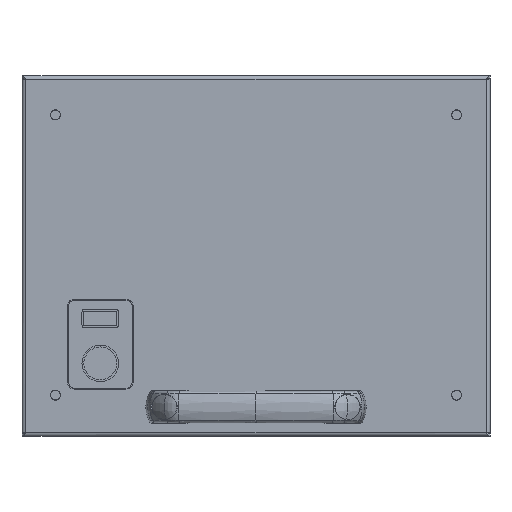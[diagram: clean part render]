
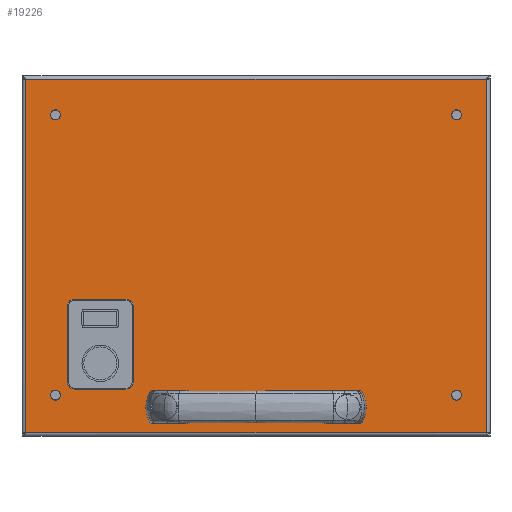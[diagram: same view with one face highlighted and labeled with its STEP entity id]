
A CAD part, top view. The second image highlights one B-rep face of the part: STEP entity #19226.
In plain terms, the highlighted planar face has unit normal (0, 0, 1).
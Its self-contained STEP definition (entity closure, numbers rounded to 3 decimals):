
#18266=CARTESIAN_POINT(' ',(52.75,-82.5,0.));
#18267=VERTEX_POINT(' ',#18266);
#18286=CARTESIAN_POINT(' ',(50.,-82.5,0.));
#18291=DIRECTION(' ',(0.,0.,1.));
#18296=DIRECTION(' ',(1.,0.,0.));
#18301=AXIS2_PLACEMENT_3D(' ',#18286,#18291,#18296);
#18306=CIRCLE('',#18301,2.75);
#18311=CARTESIAN_POINT(' ',(47.25,-82.5,0.));
#18312=VERTEX_POINT(' ',#18311);
#18316=EDGE_CURVE(' ',#18267,#18312,#18306,.T.);
#18486=CARTESIAN_POINT(' ',(50.,-82.5,0.));
#18491=DIRECTION(' ',(0.,0.,1.));
#18496=DIRECTION(' ',(-1.,0.,0.));
#18501=AXIS2_PLACEMENT_3D(' ',#18486,#18491,#18496);
#18506=CIRCLE('',#18501,2.75);
#18511=EDGE_CURVE(' ',#18312,#18267,#18506,.T.);
#18581=DIRECTION(' ',(-0.,-0.,1.));
#18586=CARTESIAN_POINT(' ',(125.65,-96.4,0.));
#18591=DIRECTION(' ',(0.,1.,0.));
#18596=AXIS2_PLACEMENT_3D(' ',#18586,#18581,#18591);
#18601=PLANE('NONE',#18596);
#18606=CARTESIAN_POINT(' ',(125.65,-96.4,0.));
#18611=DIRECTION(' ',(0.,1.,0.));
#18616=VECTOR(' ',#18611,1.);
#18621=LINE('',#18606,#18616);
#18626=CARTESIAN_POINT(' ',(125.65,-96.4,0.));
#18627=VERTEX_POINT(' ',#18626);
#18631=CARTESIAN_POINT(' ',(125.65,96.4,0.));
#18632=VERTEX_POINT(' ',#18631);
#18636=EDGE_CURVE(' ',#18627,#18632,#18621,.T.);
#18641=ORIENTED_EDGE(' ',*,*,#18636,.T.);
#18646=CARTESIAN_POINT(' ',(125.65,96.4,0.));
#18651=DIRECTION(' ',(-1.,0.,0.));
#18656=VECTOR(' ',#18651,1.);
#18661=LINE('',#18646,#18656);
#18666=CARTESIAN_POINT(' ',(-125.65,96.4,0.));
#18667=VERTEX_POINT(' ',#18666);
#18671=EDGE_CURVE(' ',#18632,#18667,#18661,.T.);
#18676=ORIENTED_EDGE(' ',*,*,#18671,.T.);
#18681=CARTESIAN_POINT(' ',(-125.65,96.4,0.));
#18686=DIRECTION(' ',(0.,-1.,0.));
#18691=VECTOR(' ',#18686,1.);
#18696=LINE('',#18681,#18691);
#18701=CARTESIAN_POINT(' ',(-125.65,-96.4,0.));
#18702=VERTEX_POINT(' ',#18701);
#18706=EDGE_CURVE(' ',#18667,#18702,#18696,.T.);
#18711=ORIENTED_EDGE(' ',*,*,#18706,.T.);
#18716=CARTESIAN_POINT(' ',(-125.65,-96.4,0.));
#18721=DIRECTION(' ',(1.,0.,0.));
#18726=VECTOR(' ',#18721,1.);
#18731=LINE('',#18716,#18726);
#18736=EDGE_CURVE(' ',#18702,#18627,#18731,.T.);
#18741=ORIENTED_EDGE(' ',*,*,#18736,.T.);
#18746=EDGE_LOOP(' ',(#18641,#18676,#18711,#18741));
#18751=FACE_OUTER_BOUND(' ',#18746,.T.);
#18756=ORIENTED_EDGE(' ',*,*,#18511,.F.);
#18761=ORIENTED_EDGE(' ',*,*,#18316,.F.);
#18766=EDGE_LOOP(' ',(#18756,#18761));
#18771=FACE_BOUND(' ',#18766,.T.);
#18776=CARTESIAN_POINT(' ',(-109.5,77.,0.));
#18781=DIRECTION(' ',(0.,-0.,-1.));
#18786=DIRECTION(' ',(-1.,0.,0.));
#18791=AXIS2_PLACEMENT_3D(' ',#18776,#18781,#18786);
#18796=CIRCLE('',#18791,2.75);
#18801=CARTESIAN_POINT(' ',(-112.25,77.,0.));
#18802=VERTEX_POINT(' ',#18801);
#18806=CARTESIAN_POINT(' ',(-106.75,77.,0.));
#18807=VERTEX_POINT(' ',#18806);
#18811=EDGE_CURVE(' ',#18802,#18807,#18796,.T.);
#18816=ORIENTED_EDGE(' ',*,*,#18811,.T.);
#18821=CARTESIAN_POINT(' ',(-109.5,77.,0.));
#18826=DIRECTION(' ',(0.,0.,-1.));
#18831=DIRECTION(' ',(1.,0.,0.));
#18836=AXIS2_PLACEMENT_3D(' ',#18821,#18826,#18831);
#18841=CIRCLE('',#18836,2.75);
#18846=EDGE_CURVE(' ',#18807,#18802,#18841,.T.);
#18851=ORIENTED_EDGE(' ',*,*,#18846,.T.);
#18856=EDGE_LOOP(' ',(#18816,#18851));
#18861=FACE_BOUND(' ',#18856,.T.);
#18866=CARTESIAN_POINT(' ',(109.5,-76.,0.));
#18871=DIRECTION(' ',(0.,-0.,-1.));
#18876=DIRECTION(' ',(-1.,0.,0.));
#18881=AXIS2_PLACEMENT_3D(' ',#18866,#18871,#18876);
#18886=CIRCLE('',#18881,2.75);
#18891=CARTESIAN_POINT(' ',(106.75,-76.,0.));
#18892=VERTEX_POINT(' ',#18891);
#18896=CARTESIAN_POINT(' ',(112.25,-76.,0.));
#18897=VERTEX_POINT(' ',#18896);
#18901=EDGE_CURVE(' ',#18892,#18897,#18886,.T.);
#18906=ORIENTED_EDGE(' ',*,*,#18901,.T.);
#18911=CARTESIAN_POINT(' ',(109.5,-76.,0.));
#18916=DIRECTION(' ',(0.,0.,-1.));
#18921=DIRECTION(' ',(1.,0.,0.));
#18926=AXIS2_PLACEMENT_3D(' ',#18911,#18916,#18921);
#18931=CIRCLE('',#18926,2.75);
#18936=EDGE_CURVE(' ',#18897,#18892,#18931,.T.);
#18941=ORIENTED_EDGE(' ',*,*,#18936,.T.);
#18946=EDGE_LOOP(' ',(#18906,#18941));
#18951=FACE_BOUND(' ',#18946,.T.);
#18956=CARTESIAN_POINT(' ',(-109.5,-76.,0.));
#18961=DIRECTION(' ',(0.,-0.,-1.));
#18966=DIRECTION(' ',(-1.,0.,0.));
#18971=AXIS2_PLACEMENT_3D(' ',#18956,#18961,#18966);
#18976=CIRCLE('',#18971,2.75);
#18981=CARTESIAN_POINT(' ',(-112.25,-76.,0.));
#18982=VERTEX_POINT(' ',#18981);
#18986=CARTESIAN_POINT(' ',(-106.75,-76.,0.));
#18987=VERTEX_POINT(' ',#18986);
#18991=EDGE_CURVE(' ',#18982,#18987,#18976,.T.);
#18996=ORIENTED_EDGE(' ',*,*,#18991,.T.);
#19001=CARTESIAN_POINT(' ',(-109.5,-76.,0.));
#19006=DIRECTION(' ',(0.,0.,-1.));
#19011=DIRECTION(' ',(1.,0.,0.));
#19016=AXIS2_PLACEMENT_3D(' ',#19001,#19006,#19011);
#19021=CIRCLE('',#19016,2.75);
#19026=EDGE_CURVE(' ',#18987,#18982,#19021,.T.);
#19031=ORIENTED_EDGE(' ',*,*,#19026,.T.);
#19036=EDGE_LOOP(' ',(#18996,#19031));
#19041=FACE_BOUND(' ',#19036,.T.);
#19046=CARTESIAN_POINT(' ',(109.5,77.,0.));
#19051=DIRECTION(' ',(0.,-0.,-1.));
#19056=DIRECTION(' ',(-1.,0.,0.));
#19061=AXIS2_PLACEMENT_3D(' ',#19046,#19051,#19056);
#19066=CIRCLE('',#19061,2.75);
#19071=CARTESIAN_POINT(' ',(106.75,77.,0.));
#19072=VERTEX_POINT(' ',#19071);
#19076=CARTESIAN_POINT(' ',(112.25,77.,0.));
#19077=VERTEX_POINT(' ',#19076);
#19081=EDGE_CURVE(' ',#19072,#19077,#19066,.T.);
#19086=ORIENTED_EDGE(' ',*,*,#19081,.T.);
#19091=CARTESIAN_POINT(' ',(109.5,77.,0.));
#19096=DIRECTION(' ',(0.,0.,-1.));
#19101=DIRECTION(' ',(1.,0.,0.));
#19106=AXIS2_PLACEMENT_3D(' ',#19091,#19096,#19101);
#19111=CIRCLE('',#19106,2.75);
#19116=EDGE_CURVE(' ',#19077,#19072,#19111,.T.);
#19121=ORIENTED_EDGE(' ',*,*,#19116,.T.);
#19126=EDGE_LOOP(' ',(#19086,#19121));
#19131=FACE_BOUND(' ',#19126,.T.);
#19136=CARTESIAN_POINT(' ',(-50.,-82.5,0.));
#19141=DIRECTION(' ',(0.,0.,1.));
#19146=DIRECTION(' ',(-1.,0.,0.));
#19151=AXIS2_PLACEMENT_3D(' ',#19136,#19141,#19146);
#19156=CIRCLE('',#19151,2.75);
#19161=CARTESIAN_POINT(' ',(-52.75,-82.5,0.));
#19162=VERTEX_POINT(' ',#19161);
#19166=CARTESIAN_POINT(' ',(-47.25,-82.5,0.));
#19167=VERTEX_POINT(' ',#19166);
#19171=EDGE_CURVE(' ',#19162,#19167,#19156,.T.);
#19176=ORIENTED_EDGE(' ',*,*,#19171,.F.);
#19181=CARTESIAN_POINT(' ',(-50.,-82.5,0.));
#19186=DIRECTION(' ',(0.,0.,1.));
#19191=DIRECTION(' ',(1.,0.,0.));
#19196=AXIS2_PLACEMENT_3D(' ',#19181,#19186,#19191);
#19201=CIRCLE('',#19196,2.75);
#19206=EDGE_CURVE(' ',#19167,#19162,#19201,.T.);
#19211=ORIENTED_EDGE(' ',*,*,#19206,.F.);
#19216=EDGE_LOOP(' ',(#19176,#19211));
#19221=FACE_BOUND(' ',#19216,.T.);
#19226=ADVANCED_FACE('NONE',(#18751,#18771,#18861,#18951,#19041,#19131,#19221),#18601,.T.);
